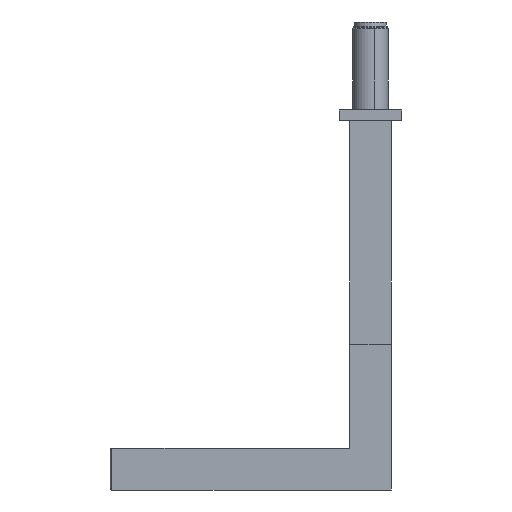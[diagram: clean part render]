
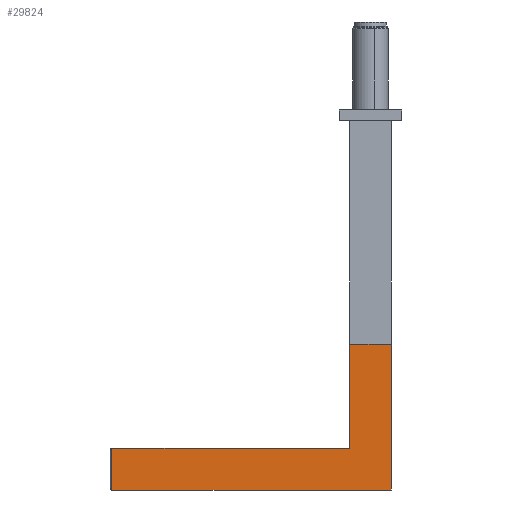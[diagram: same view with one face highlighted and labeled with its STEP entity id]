
A CAD part, front view. The second image highlights one B-rep face of the part: STEP entity #29824.
In plain terms, the highlighted planar face has unit normal (0, -1, 0) as drawn and (-1, 0, 0) by its records, which use the part's own axes.
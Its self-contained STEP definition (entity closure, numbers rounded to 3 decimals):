
#262 = DIRECTION ( 'NONE',  ( 0., 0., -1. ) ) ;
#770 = VERTEX_POINT ( 'NONE', #41142 ) ;
#1169 = ORIENTED_EDGE ( 'NONE', *, *, #49572, .T. ) ;
#1256 = ORIENTED_EDGE ( 'NONE', *, *, #8053, .F. ) ;
#4364 = VERTEX_POINT ( 'NONE', #29565 ) ;
#4869 = VECTOR ( 'NONE', #25582, 1000. ) ;
#8053 = EDGE_CURVE ( 'NONE', #16956, #60751, #20380, .T. ) ;
#8883 = EDGE_LOOP ( 'NONE', ( #17214, #17087, #22940, #1169, #56855, #1256 ) ) ;
#9652 = PLANE ( 'NONE',  #17826 ) ;
#10013 = VECTOR ( 'NONE', #55039, 1000. ) ;
#10332 = VECTOR ( 'NONE', #34432, 1000. ) ;
#10690 = CARTESIAN_POINT ( 'NONE',  ( -7.5, -20., 140. ) ) ;
#13895 = VECTOR ( 'NONE', #26841, 1000. ) ;
#16131 = CARTESIAN_POINT ( 'NONE',  ( -7.5, 20., 140. ) ) ;
#16956 = VERTEX_POINT ( 'NONE', #52060 ) ;
#17087 = ORIENTED_EDGE ( 'NONE', *, *, #29801, .T. ) ;
#17214 = ORIENTED_EDGE ( 'NONE', *, *, #60185, .F. ) ;
#17826 = AXIS2_PLACEMENT_3D ( 'NONE', #44576, #34848, #262 ) ;
#20380 = LINE ( 'NONE', #10690, #4869 ) ;
#20404 = VERTEX_POINT ( 'NONE', #52358 ) ;
#22940 = ORIENTED_EDGE ( 'NONE', *, *, #61346, .F. ) ;
#23505 = LINE ( 'NONE', #43208, #10332 ) ;
#24542 = LINE ( 'NONE', #49416, #40489 ) ;
#25379 = CARTESIAN_POINT ( 'NONE',  ( -7.5, -250., 100. ) ) ;
#25582 = DIRECTION ( 'NONE',  ( 0., 0., -1. ) ) ;
#25586 = VECTOR ( 'NONE', #34735, 1000. ) ;
#26841 = DIRECTION ( 'NONE',  ( 0., 0., -1. ) ) ;
#29565 = CARTESIAN_POINT ( 'NONE',  ( -7.5, -248.5, 140. ) ) ;
#29801 = EDGE_CURVE ( 'NONE', #61258, #4364, #24542, .T. ) ;
#29824 = ADVANCED_FACE ( 'NONE', ( #34216 ), #9652, .F. ) ;
#30535 = LINE ( 'NONE', #25379, #25586 ) ;
#30704 = LINE ( 'NONE', #16131, #13895 ) ;
#34216 = FACE_OUTER_BOUND ( 'NONE', #8883, .T. ) ;
#34432 = DIRECTION ( 'NONE',  ( 0., -1., 0. ) ) ;
#34735 = DIRECTION ( 'NONE',  ( 0., 1., 0. ) ) ;
#34848 = DIRECTION ( 'NONE',  ( 1., 0., 0. ) ) ;
#34985 = CARTESIAN_POINT ( 'NONE',  ( -7.5, -20., 0. ) ) ;
#36889 = EDGE_CURVE ( 'NONE', #770, #60751, #59919, .T. ) ;
#40489 = VECTOR ( 'NONE', #60106, 1000. ) ;
#41142 = CARTESIAN_POINT ( 'NONE',  ( -7.5, 20., 0. ) ) ;
#43208 = CARTESIAN_POINT ( 'NONE',  ( -7.5, -20., 140. ) ) ;
#44576 = CARTESIAN_POINT ( 'NONE',  ( -7.5, -20., 140. ) ) ;
#49416 = CARTESIAN_POINT ( 'NONE',  ( -7.5, -248.5, 140. ) ) ;
#49572 = EDGE_CURVE ( 'NONE', #20404, #770, #30704, .T. ) ;
#51134 = CARTESIAN_POINT ( 'NONE',  ( -7.5, -20., 0. ) ) ;
#52060 = CARTESIAN_POINT ( 'NONE',  ( -7.5, -20., 100. ) ) ;
#52358 = CARTESIAN_POINT ( 'NONE',  ( -7.5, 20., 140. ) ) ;
#54172 = CARTESIAN_POINT ( 'NONE',  ( -7.5, -248.5, 100. ) ) ;
#55039 = DIRECTION ( 'NONE',  ( 0., -1., 0. ) ) ;
#56855 = ORIENTED_EDGE ( 'NONE', *, *, #36889, .T. ) ;
#59919 = LINE ( 'NONE', #34985, #10013 ) ;
#60106 = DIRECTION ( 'NONE',  ( 0., 0., 1. ) ) ;
#60185 = EDGE_CURVE ( 'NONE', #61258, #16956, #30535, .T. ) ;
#60751 = VERTEX_POINT ( 'NONE', #51134 ) ;
#61258 = VERTEX_POINT ( 'NONE', #54172 ) ;
#61346 = EDGE_CURVE ( 'NONE', #20404, #4364, #23505, .T. ) ;
